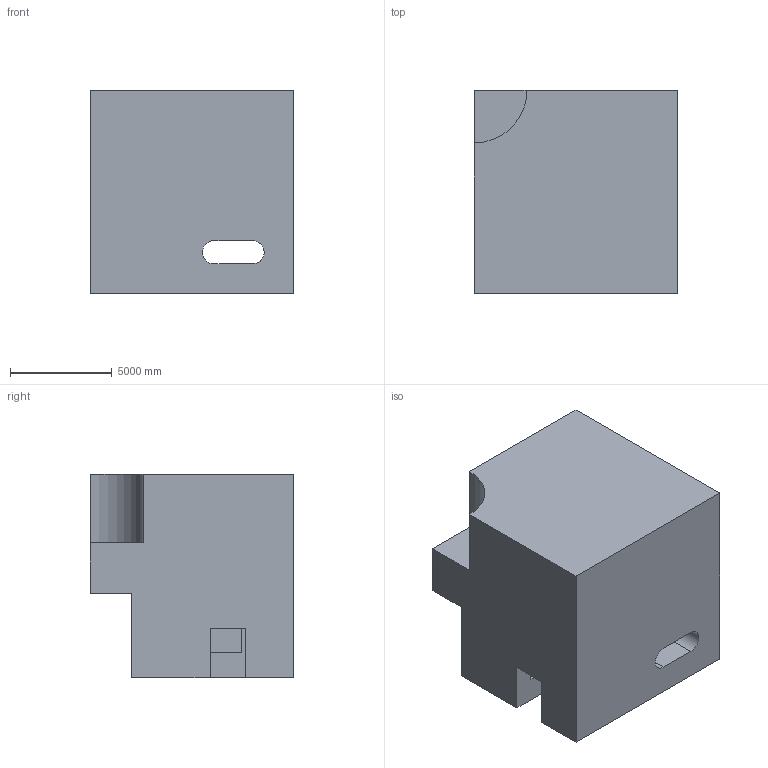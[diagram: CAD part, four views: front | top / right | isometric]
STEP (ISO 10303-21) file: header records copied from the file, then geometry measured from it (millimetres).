
FILE_DESCRIPTION (( 'STEP AP203' ), '1' );
FILE_NAME ('443.STEP', '2022-07-29T11:18:15', ( 'user' ), ( '' ), 'SwSTEP 2.0', 'SolidWorks 2021', '' );
FILE_SCHEMA (( 'CONFIG_CONTROL_DESIGN' ));
Length unit declared in the file: centimetre
Products named in the file (1): 443
Bounding box: 10000 x 10000 x 10000 mm (x, y, z)
Volume: 820434040952 mm3; surface area: 671664449.4 mm2
Topology: 1 solids, 1 shells, 23 faces, 66 edges, 44 vertices
Faces by surface type: plane 20, cylinder 3
Entity records: 829 total; most frequent: CARTESIAN_POINT 140, ORIENTED_EDGE 132, DIRECTION 116, EDGE_CURVE 66, LINE 60, VECTOR 60, VERTEX_POINT 44, AXIS2_PLACEMENT_3D 28
